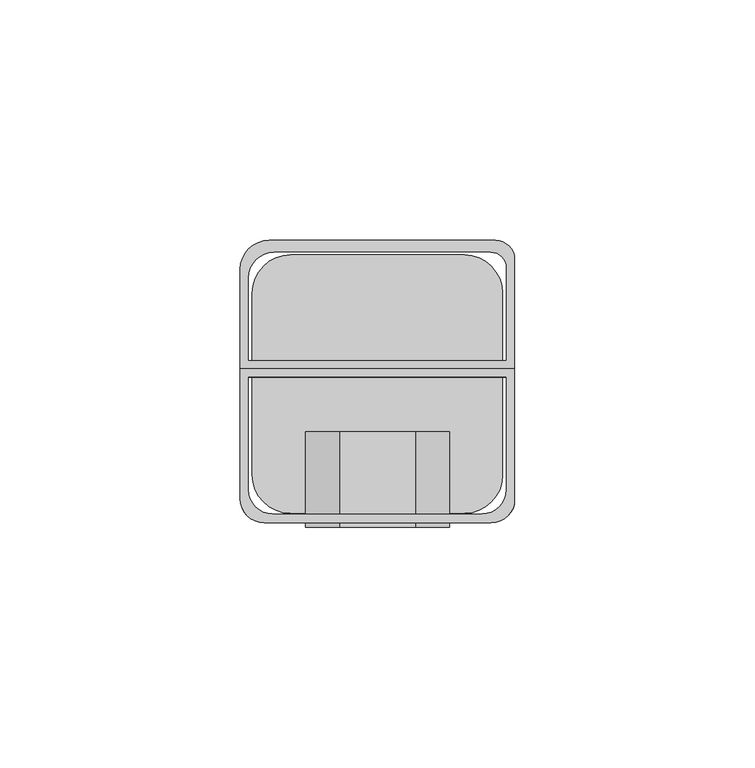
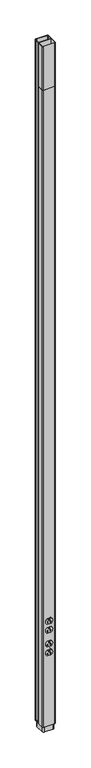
"""IFC4 building model written with IfcOpenShell, lengths in millimetres: proxy geometry, Tele-Power_Poles-Wiremold-Aluminum_Tele-Power_Pole : AMDTP-4D - Aluminum."""

from ifc_helpers import new_model, si_unit, point, frame, frame_2d, origin, origin_with_axes, place, context, project, spatial, polyline, circle_curve, trimmed, segment, composite_curve, outline, extrude, source, transform, mapped, element, save


def electrical_fixtures_73bc812c(model_context):
    return source(origin(), model_context, "Body", "SweptSolid", [
        extrude(outline(composite_curve([segment(trimmed(circle_curve(frame_2d((383.1489583, -1.066293)), 13.933707), [point((395.2960251, -7.8924893))], [point((383.1489583, -15.0))], False, "CARTESIAN"), True, "CONTINUOUS"), segment(polyline([(383.1489583, -15.0), (381.2314332, -15.0)]), True, "CONTINUOUS"), segment(trimmed(circle_curve(frame_2d((381.2314332, -0.8980964)), 14.1019036), [point((381.2314332, -15.0))], [point((369.2960251, -8.4087368))], False, "CARTESIAN"), True, "CONTINUOUS"), segment(polyline([(369.2960251, -8.4087368), (369.2960251, 8.5219574)]), True, "CONTINUOUS"), segment(trimmed(circle_curve(frame_2d((381.1036564, 1.0)), 14.0), [point((369.2960251, 8.5219574))], [point((381.1036564, 15.0))], False, "CARTESIAN"), True, "CONTINUOUS"), segment(polyline([(381.1036564, 15.0), (383.1911595, 15.0)]), True, "CONTINUOUS"), segment(trimmed(circle_curve(frame_2d((383.1911595, 1.0137234)), 13.9862766), [point((383.1911595, 15.0))], [point((395.2960251, 8.0200178))], False, "CARTESIAN"), True, "CONTINUOUS"), segment(polyline([(395.2960251, 8.0200178), (395.2960251, -7.8924893)]), True, "CONTINUOUS")], self_intersect=False), holes=[polyline([(381.4352273, -5.4971077), (373.4977273, -5.4971077), (373.4977273, -7.0864631), (376.6875012, -7.0864631), (376.6875012, -10.8739631), (378.2750012, -10.8739631), (378.2750012, -7.0864631), (381.4352273, -7.0864631), (381.4352273, -5.4971077)]), polyline([(374.2914773, 5.3273064), (380.6414773, 5.3273064), (380.6414773, 6.9135369), (374.2914773, 6.9135369), (374.2914773, 5.3273064)]), composite_curve([segment(polyline([(391.8789773, 2.2744253), (388.7039773, 2.2744253)]), True, "CONTINUOUS"), segment(trimmed(circle_curve(frame_2d((388.7039773, -0.1068247)), 2.38125), [point((388.7039773, 2.2744253))], [point((388.7039773, -2.4880747))], True, "CARTESIAN"), True, "CONTINUOUS"), segment(polyline([(388.7039773, -2.4880747), (391.8789773, -2.4880747), (391.8789773, 2.2744253)]), True, "CONTINUOUS")], self_intersect=False)]), frame((0.0, -29.86875, 0.0), z_axis=(0.0, 1.0, 0.0), x_axis=(0.0, 0.0, 1.0)), (0.0, 0.0, 1.0), 19.8625),
        extrude(outline(composite_curve([segment(polyline([(353.4960251, 8.7277208), (353.4960251, -8.6182874)]), True, "CONTINUOUS"), segment(trimmed(circle_curve(frame_2d((341.791413, -1.0755089)), 13.9244911), [point((353.4960251, -8.6182874))], [point((341.791413, -15.0))], False, "CARTESIAN"), True, "CONTINUOUS"), segment(polyline([(341.791413, -15.0), (339.8667378, -15.0)]), True, "CONTINUOUS"), segment(trimmed(circle_curve(frame_2d((339.8667378, -0.8892045)), 14.1107955), [point((339.8667378, -15.0))], [point((327.4960251, -7.6774309))], False, "CARTESIAN"), True, "CONTINUOUS"), segment(polyline([(327.4960251, -7.6774309), (327.4960251, 7.7995466)]), True, "CONTINUOUS"), segment(trimmed(circle_curve(frame_2d((339.7391341, 0.9911428)), 14.0088572), [point((327.4960251, 7.7995466))], [point((339.7391341, 15.0))], False, "CARTESIAN"), True, "CONTINUOUS"), segment(polyline([(339.7391341, 15.0), (341.8335943, 15.0)]), True, "CONTINUOUS"), segment(trimmed(circle_curve(frame_2d((341.8335943, 1.0215264)), 13.9784736), [point((341.8335943, 15.0))], [point((353.4960251, 8.7277208))], False, "CARTESIAN"), True, "CONTINUOUS")], self_intersect=False), holes=[polyline([(340.0352273, -5.6609185), (332.0977273, -5.6609185), (332.0977273, -7.0864631), (335.2875012, -7.0864631), (335.2875012, -10.8739631), (336.8750012, -10.8739631), (336.8750012, -7.0864631), (340.0352273, -7.0864631), (340.0352273, -5.6609185)]), polyline([(332.8914773, 5.3273064), (339.2414773, 5.3273064), (339.2414773, 6.9135369), (332.8914773, 6.9135369), (332.8914773, 5.3273064)]), composite_curve([segment(polyline([(350.4789773, 2.2744253), (347.3039773, 2.2744253)]), True, "CONTINUOUS"), segment(trimmed(circle_curve(frame_2d((347.3039773, -0.1068247)), 2.38125), [point((347.3039773, 2.2744253))], [point((347.3039773, -2.4880747))], True, "CARTESIAN"), True, "CONTINUOUS"), segment(polyline([(347.3039773, -2.4880747), (350.4789773, -2.4880747), (350.4789773, 2.2744253)]), True, "CONTINUOUS")], self_intersect=False)]), frame((0.0, -29.86875, 0.0), z_axis=(0.0, 1.0, 0.0), x_axis=(0.0, 0.0, 1.0)), (0.0, 0.0, 1.0), 19.8625),
        extrude(outline(composite_curve([segment(polyline([(28.575, 2.63125), (28.575, -25.36875)]), True, "CONTINUOUS"), segment(trimmed(circle_curve(frame_2d((23.6760205, -24.36875)), 5.0), [point((28.575, -25.36875))], [point((23.6760205, -29.36875))], False, "CARTESIAN"), True, "CONTINUOUS"), segment(polyline([(23.6760205, -29.36875), (-23.575, -29.36875)]), True, "CONTINUOUS"), segment(trimmed(circle_curve(frame_2d((-23.575, -24.36875)), 5.0), [point((-23.575, -29.36875))], [point((-28.575, -24.36875))], False, "CARTESIAN"), True, "CONTINUOUS"), segment(polyline([(-28.575, -24.36875), (-28.575, 2.63125), (28.575, 2.63125)]), True, "CONTINUOUS")], self_intersect=False), holes=[composite_curve([segment(polyline([(-26.775, 0.83125), (-26.775, -22.56875)]), True, "CONTINUOUS"), segment(trimmed(circle_curve(frame_2d((-21.775, -22.56875)), 5.0), [point((-26.775, -22.56875))], [point((-21.775, -27.56875))], True, "CARTESIAN"), True, "CONTINUOUS"), segment(polyline([(-21.775, -27.56875), (21.775, -27.56875)]), True, "CONTINUOUS"), segment(trimmed(circle_curve(frame_2d((21.775, -22.56875)), 5.0), [point((21.775, -27.56875))], [point((26.775, -22.56875))], True, "CARTESIAN"), True, "CONTINUOUS"), segment(polyline([(26.775, -22.56875), (26.775, 0.83125), (-26.775, 0.83125)]), True, "CONTINUOUS")], self_intersect=False)]), frame((0.0, 0.0, 2971.8), z_axis=(0.0, 0.0, 1.0), x_axis=(1.0, 0.0, 0.0)), (0.0, 0.0, 1.0), 203.2),
        extrude(outline(composite_curve([segment(polyline([(28.575, 2.63125), (28.575, -25.36875)]), True, "CONTINUOUS"), segment(trimmed(circle_curve(frame_2d((23.6760205, -24.36875)), 5.0), [point((28.575, -25.36875))], [point((23.6760205, -29.36875))], False, "CARTESIAN"), True, "CONTINUOUS"), segment(polyline([(23.6760205, -29.36875), (-23.575, -29.36875)]), True, "CONTINUOUS"), segment(trimmed(circle_curve(frame_2d((-23.575, -24.36875)), 5.0), [point((-23.575, -29.36875))], [point((-28.575, -24.36875))], False, "CARTESIAN"), True, "CONTINUOUS"), segment(polyline([(-28.575, -24.36875), (-28.575, 2.63125), (28.575, 2.63125)]), True, "CONTINUOUS")], self_intersect=False), holes=[composite_curve([segment(polyline([(-26.775, 0.83125), (-26.775, -22.56875)]), True, "CONTINUOUS"), segment(trimmed(circle_curve(frame_2d((-21.775, -22.56875)), 5.0), [point((-26.775, -22.56875))], [point((-21.775, -27.56875))], True, "CARTESIAN"), True, "CONTINUOUS"), segment(polyline([(-21.775, -27.56875), (21.775, -27.56875)]), True, "CONTINUOUS"), segment(trimmed(circle_curve(frame_2d((21.775, -22.56875)), 5.0), [point((21.775, -27.56875))], [point((26.775, -22.56875))], True, "CARTESIAN"), True, "CONTINUOUS"), segment(polyline([(26.775, -22.56875), (26.775, 0.83125), (-26.775, 0.83125)]), True, "CONTINUOUS")], self_intersect=False)]), origin_with_axes(), (0.0, 0.0, 1.0), 2971.8),
        extrude(outline(composite_curve([segment(trimmed(circle_curve(frame_2d((488.7029331, -1.066293)), 13.933707), [point((500.85, -7.8924893))], [point((488.7029331, -15.0))], False, "CARTESIAN"), True, "CONTINUOUS"), segment(polyline([(488.7029331, -15.0), (486.7854081, -15.0)]), True, "CONTINUOUS"), segment(trimmed(circle_curve(frame_2d((486.7854081, -0.8980964)), 14.1019036), [point((486.7854081, -15.0))], [point((474.85, -8.4087368))], False, "CARTESIAN"), True, "CONTINUOUS"), segment(polyline([(474.85, -8.4087368), (474.85, 8.5219574)]), True, "CONTINUOUS"), segment(trimmed(circle_curve(frame_2d((486.6576313, 1.0)), 14.0), [point((474.85, 8.5219574))], [point((486.6576313, 15.0))], False, "CARTESIAN"), True, "CONTINUOUS"), segment(polyline([(486.6576313, 15.0), (488.7451343, 15.0)]), True, "CONTINUOUS"), segment(trimmed(circle_curve(frame_2d((488.7451343, 1.0137234)), 13.9862766), [point((488.7451343, 15.0))], [point((500.85, 8.0200178))], False, "CARTESIAN"), True, "CONTINUOUS"), segment(polyline([(500.85, 8.0200178), (500.85, -7.8924893)]), True, "CONTINUOUS")], self_intersect=False), holes=[polyline([(486.9892021, -5.4971077), (479.0517021, -5.4971077), (479.0517021, -7.0864631), (486.9892021, -7.0864631), (486.9892021, -5.4971077)]), polyline([(479.8454521, 5.3273064), (486.1954521, 5.3273064), (486.1954521, 6.9135369), (479.8454521, 6.9135369), (479.8454521, 5.3273064)]), composite_curve([segment(polyline([(497.4329521, 2.2744253), (494.2579521, 2.2744253)]), True, "CONTINUOUS"), segment(trimmed(circle_curve(frame_2d((494.2579521, -0.1068247)), 2.38125), [point((494.2579521, 2.2744253))], [point((494.2579521, -2.4880747))], True, "CARTESIAN"), True, "CONTINUOUS"), segment(polyline([(494.2579521, -2.4880747), (497.4329521, -2.4880747), (497.4329521, 2.2744253)]), True, "CONTINUOUS")], self_intersect=False)]), frame((0.0, -29.86875, 0.0), z_axis=(0.0, 1.0, 0.0), x_axis=(0.0, 0.0, 1.0)), (0.0, 0.0, 1.0), 19.8625),
        extrude(outline(composite_curve([segment(polyline([(459.05, 8.7277208), (459.05, -8.6182874)]), True, "CONTINUOUS"), segment(trimmed(circle_curve(frame_2d((447.3453879, -1.0755089)), 13.9244911), [point((459.05, -8.6182874))], [point((447.3453879, -15.0))], False, "CARTESIAN"), True, "CONTINUOUS"), segment(polyline([(447.3453879, -15.0), (445.4207127, -15.0)]), True, "CONTINUOUS"), segment(trimmed(circle_curve(frame_2d((445.4207127, -0.8892045)), 14.1107955), [point((445.4207127, -15.0))], [point((433.05, -7.6774309))], False, "CARTESIAN"), True, "CONTINUOUS"), segment(polyline([(433.05, -7.6774309), (433.05, 7.7995466)]), True, "CONTINUOUS"), segment(trimmed(circle_curve(frame_2d((445.293109, 0.9911428)), 14.0088572), [point((433.05, 7.7995466))], [point((445.293109, 15.0))], False, "CARTESIAN"), True, "CONTINUOUS"), segment(polyline([(445.293109, 15.0), (447.3875692, 15.0)]), True, "CONTINUOUS"), segment(trimmed(circle_curve(frame_2d((447.3875692, 1.0215264)), 13.9784736), [point((447.3875692, 15.0))], [point((459.05, 8.7277208))], False, "CARTESIAN"), True, "CONTINUOUS")], self_intersect=False), holes=[polyline([(445.5892021, -5.6609185), (437.6517021, -5.6609185), (437.6517021, -7.2502739), (445.5892021, -7.2502739), (445.5892021, -5.6609185)]), polyline([(438.4454521, 5.3273064), (444.7954521, 5.3273064), (444.7954521, 6.9135369), (438.4454521, 6.9135369), (438.4454521, 5.3273064)]), composite_curve([segment(polyline([(456.0329521, 2.2744253), (452.8579521, 2.2744253)]), True, "CONTINUOUS"), segment(trimmed(circle_curve(frame_2d((452.8579521, -0.1068247)), 2.38125), [point((452.8579521, 2.2744253))], [point((452.8579521, -2.4880747))], True, "CARTESIAN"), True, "CONTINUOUS"), segment(polyline([(452.8579521, -2.4880747), (456.0329521, -2.4880747), (456.0329521, 2.2744253)]), True, "CONTINUOUS")], self_intersect=False)]), frame((0.0, -29.86875, 0.0), z_axis=(0.0, 1.0, 0.0), x_axis=(0.0, 0.0, 1.0)), (0.0, 0.0, 1.0), 19.8625),
        extrude(outline(composite_curve([segment(trimmed(circle_curve(frame_2d((18.075, 18.86875)), 8.0), [point((18.075, 26.86875))], [point((26.075, 18.86875))], False, "CARTESIAN"), True, "CONTINUOUS"), segment(polyline([(26.075, 18.86875), (26.075, -18.86875)]), True, "CONTINUOUS"), segment(trimmed(circle_curve(frame_2d((18.075, -18.86875)), 8.0), [point((26.075, -18.86875))], [point((18.075, -26.86875))], False, "CARTESIAN"), True, "CONTINUOUS"), segment(polyline([(18.075, -26.86875), (-18.075, -26.86875)]), True, "CONTINUOUS"), segment(trimmed(circle_curve(frame_2d((-18.075, -18.86875)), 8.0), [point((-18.075, -26.86875))], [point((-26.075, -18.86875))], False, "CARTESIAN"), True, "CONTINUOUS"), segment(polyline([(-26.075, -18.86875), (-26.075, 18.86875)]), True, "CONTINUOUS"), segment(trimmed(circle_curve(frame_2d((-18.075, 18.86875)), 8.0), [point((-26.075, 18.86875))], [point((-18.075, 26.86875))], False, "CARTESIAN"), True, "CONTINUOUS"), segment(polyline([(-18.075, 26.86875), (18.075, 26.86875)]), True, "CONTINUOUS")], self_intersect=False)), frame((0.0, 0.0, -25.4), z_axis=(0.0, 0.0, 1.0), x_axis=(1.0, 0.0, 0.0)), (0.0, 0.0, 1.0), 25.4),
        extrude(outline(composite_curve([segment(trimmed(circle_curve(frame_2d((24.575, 25.36875)), 4.0), [point((24.575, 29.36875))], [point((28.575, 25.36875))], False, "CARTESIAN"), True, "CONTINUOUS"), segment(polyline([(28.575, 25.36875), (28.575, 2.63125), (-28.575, 2.63125), (-28.575, 23.31875)]), True, "CONTINUOUS"), segment(trimmed(circle_curve(frame_2d((-22.525, 23.31875)), 6.05), [point((-28.575, 23.31875))], [point((-22.525, 29.36875))], False, "CARTESIAN"), True, "CONTINUOUS"), segment(polyline([(-22.525, 29.36875), (24.575, 29.36875)]), True, "CONTINUOUS")], self_intersect=False), holes=[composite_curve([segment(polyline([(26.775, 4.43125), (26.775, 23.66875)]), True, "CONTINUOUS"), segment(trimmed(circle_curve(frame_2d((23.575, 23.66875)), 3.2), [point((26.775, 23.66875))], [point((23.575, 26.86875))], True, "CARTESIAN"), True, "CONTINUOUS"), segment(polyline([(23.575, 26.86875), (-21.525, 26.86875)]), True, "CONTINUOUS"), segment(trimmed(circle_curve(frame_2d((-21.525, 21.61875)), 5.25), [point((-21.525, 26.86875))], [point((-26.775, 21.61875))], True, "CARTESIAN"), True, "CONTINUOUS"), segment(polyline([(-26.775, 21.61875), (-26.775, 4.43125), (26.775, 4.43125)]), True, "CONTINUOUS")], self_intersect=False)]), origin_with_axes(), (0.0, 0.0, 1.0), 3175.0),
    ])


if __name__ == "__main__":
    model = new_model("IFC4")
    model_context = context("Model", 3, world=origin())
    ifc_project = project(units=[si_unit("LENGTHUNIT", "METRE", prefix="MILLI")], contexts=[model_context])
    site = spatial("IfcSite", under=ifc_project)
    building = spatial("IfcBuilding", under=site)
    placement = place(None, origin())
    electrical_fixtures_shape = electrical_fixtures_73bc812c(model_context)
    element("IfcBuildingElementProxy", 1, Name="Tele-Power_Poles-Wiremold-Aluminum_Tele-Power_Pole : AMDTP-4D - Aluminum", ObjectType="Tele-Power_Poles-Wiremold-Aluminum_Tele-Power_Pole : AMDTP-4D - Aluminum", at=placement, inside=building, context=model_context, shape_type="MappedRepresentation", body=[
        mapped(electrical_fixtures_shape, transform((0.0, 0.0, 0.0), x_axis=(1.0, 0.0, 0.0), y_axis=(0.0, 1.0, 0.0), z_axis=(0.0, 0.0, 1.0))),
    ])
    save(model, "model.ifc")
